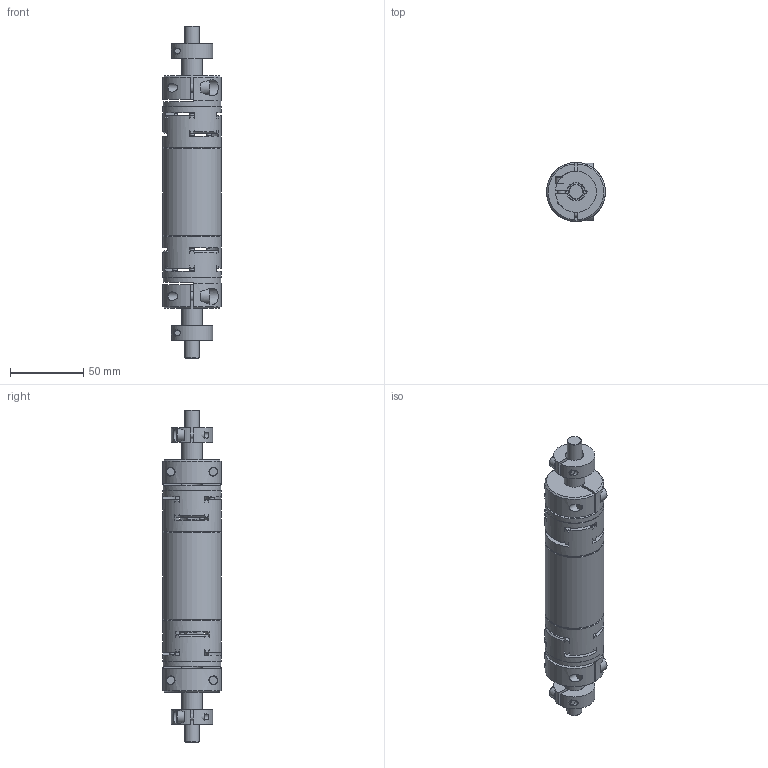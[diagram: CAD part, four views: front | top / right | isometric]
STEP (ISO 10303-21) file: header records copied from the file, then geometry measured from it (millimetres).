
FILE_DESCRIPTION(/* description */ ('Dummy'),/* implementation_level */ '2;1');
FILE_NAME(/* name */ 'D:\InventorWorkspace2019\CAD\_lokale konstruktionen\VerbWelleHLR070\0232.910-0250.stp',/* time_stamp */ '2020-04-14T16:08:04+02:00',/* author */ ('AR64535'),/* organization */ (''),/* preprocessor_version */ 'ST-DEVELOPER v17.2',/* originating_system */ 'Autodesk Inventor 2019',/* authorisation */ '');
FILE_SCHEMA (('AUTOMOTIVE_DESIGN { 1 0 10303 214 3 1 1 }'));
Length unit declared in the file: millimetre
Products named in the file (8): 0241910-XXXX_HLR070; 0241.910-XXXX; ROTEX GS19 ZR3_Klemmnabe D14; ROTEX GS19 ZR3_Rohr; 0232.007-02; 0231.029; 0231.012-01; 130-302319
Assembly tree (11 placements, depth 3):
  0241910-XXXX_HLR070
    0241.910-XXXX
      ROTEX GS19 ZR3_Klemmnabe D14  x2
      ROTEX GS19 ZR3_Rohr
    0232.007-02
      0231.029  x2
      0231.012-01  x2
      130-302319  x2
Bounding box: 40 x 40 x 226 mm (x, y, z)
Volume: 133536.3 mm3; surface area: 61372.6 mm2
Topology: 9 solids, 9 shells, 430 faces, 1260 edges, 858 vertices
Faces by surface type: cylinder 178, plane 156, cone 92, torus 4
Full cylindrical faces by diameter (mm): 3 x12, 4.134 x2, 5 x2, 5.3 x2, 6 x4, 6.6 x8, 8.5 x2, 10 x6, 14 x4, 18 x4, 22 x2, 34 x1, 39.4 x2, 40 x3
Entity records: 8244 total; most frequent: CARTESIAN_POINT 2097, ORIENTED_EDGE 1268, DIRECTION 1244, EDGE_CURVE 634, AXIS2_PLACEMENT_3D 516, VERTEX_POINT 432, CIRCLE 279, EDGE_LOOP 256
